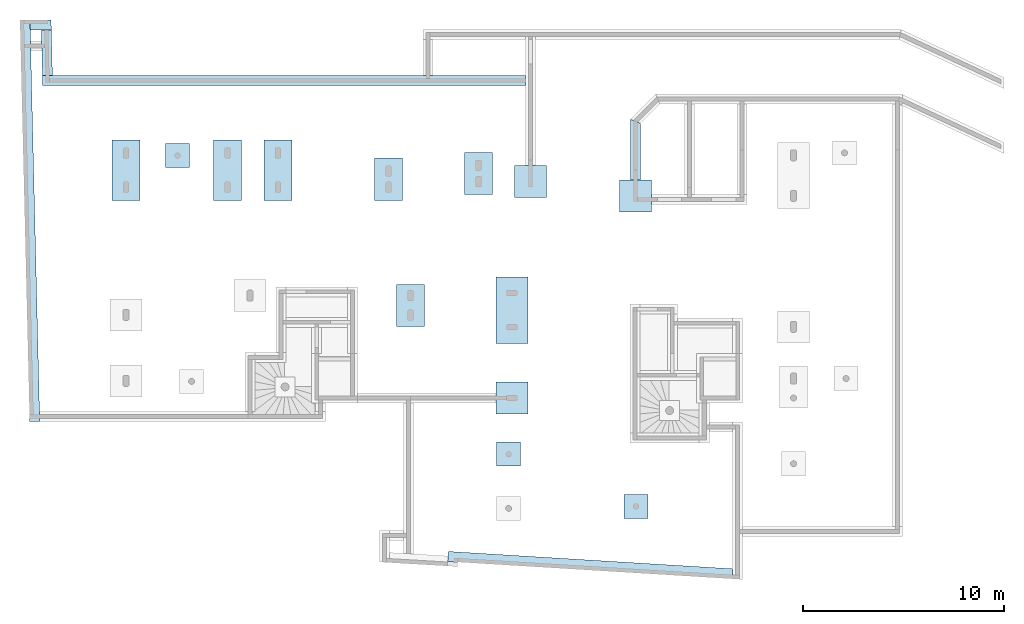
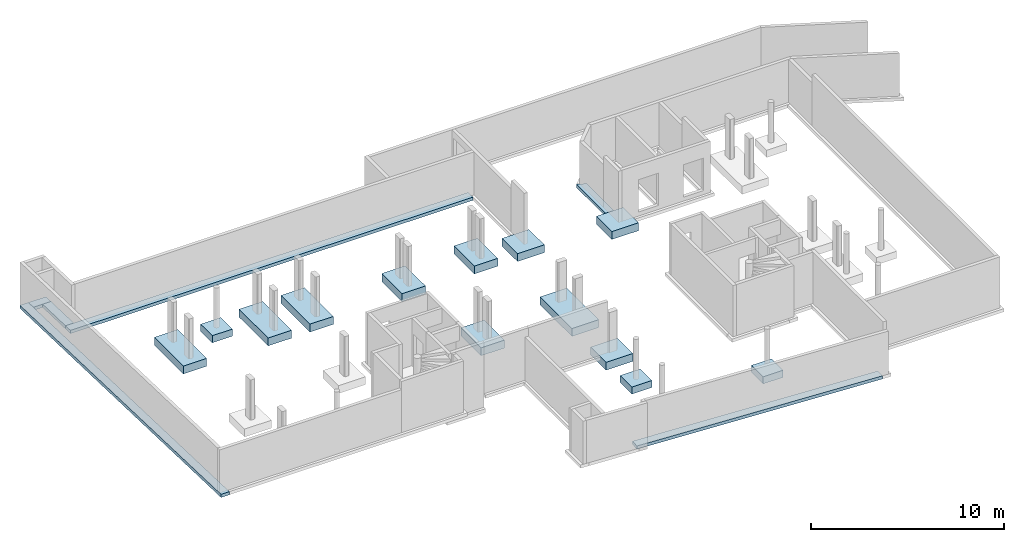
# One storey, part 6 of 6: 19 footings.
"""IFC2X3 building model written with IfcOpenShell, lengths in millimetres."""

from ifc_helpers import new_model, entity, si_unit, converted_unit, frame, origin, origin_with_axes, place, context, subcontext, project, spatial, faceted_brep, material, element, save


model = new_model("IFC2X3")

# Units and contexts
model_context = context("Model", 3, precision=1e-05, world=origin())
body_context = subcontext(model_context, "Body", "Model", "MODEL_VIEW")
ifc_project = project(units=[si_unit("LENGTHUNIT", "METRE", prefix="MILLI"), converted_unit("PLANEANGLEUNIT", "DEGREE", entity("IfcPlaneAngleMeasure", 0.0174532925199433), si_unit("PLANEANGLEUNIT", "RADIAN"), dimensions=[0, 0, 0, 0, 0, 0, 0]), si_unit("AREAUNIT", "SQUARE_METRE"), si_unit("VOLUMEUNIT", "CUBIC_METRE")], contexts=[model_context])

# Site, building, storey
site_placement = place(None, origin())
site = spatial("IfcSite", under=ifc_project, at=site_placement, Name="Propriété", CompositionType="ELEMENT")
building_placement = place(site_placement, origin_with_axes())
building = spatial("IfcBuilding", under=site, at=building_placement, Name="Bâtiment", CompositionType="ELEMENT")
storey_placement = place(building_placement, frame((0.0, 0.0, -3300.0), z_axis=(0.0, 0.0, 1.0), x_axis=(1.0, 0.0, 0.0)))
storey = spatial("IfcBuildingStorey", under=building, at=storey_placement, Name="Sous-sol", CompositionType="ELEMENT", Elevation=-3300.0)

# Footings
ifc_material_1 = material(Name="<Unnamed Material>")
footing_1_placement = place(storey_placement, frame((20000.57775641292, 11374.6293178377, -500.0100000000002), z_axis=(0.0, 0.0, 1.0), x_axis=(1.0, 0.0, 0.0)))
element("IfcFooting", 1, at=footing_1_placement, inside=storey, material=ifc_material_1, Name="<Unnamed Element>", PredefinedType="NOTDEFINED", context=body_context, shape_type="Brep", body=[
    faceted_brep([(0.00999999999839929, 1600.01, 0.01000000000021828), (0.00999999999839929, 0.01000000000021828, 0.01000000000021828), (1600.009999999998, 0.01000000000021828, 0.01000000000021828), (1600.009999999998, 1600.01, 0.01000000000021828), (0.00999999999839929, 0.01000000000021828, 500.0100000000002), (0.00999999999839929, 1600.01, 500.0100000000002), (1600.009999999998, 1600.01, 500.0100000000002), (1600.009999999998, 0.01000000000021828, 500.0100000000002), (0.00999999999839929, 0.01000000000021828, 0.01000000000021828), (0.00999999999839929, 1600.01, 0.01000000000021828), (0.00999999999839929, 1600.01, 500.0100000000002), (0.00999999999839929, 0.01000000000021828, 500.0100000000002), (1600.009999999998, 0.01000000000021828, 0.01000000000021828), (0.00999999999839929, 0.01000000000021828, 0.01000000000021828), (0.00999999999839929, 0.01000000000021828, 500.0100000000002), (1600.009999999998, 0.01000000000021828, 500.0100000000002), (1600.009999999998, 1600.01, 0.01000000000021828), (1600.009999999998, 0.01000000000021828, 0.01000000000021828), (1600.009999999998, 0.01000000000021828, 500.0100000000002), (1600.009999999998, 1600.01, 500.0100000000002), (0.00999999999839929, 1600.01, 0.01000000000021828), (1600.009999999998, 1600.01, 0.01000000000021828), (1600.009999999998, 1600.01, 500.0100000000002), (0.00999999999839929, 1600.01, 500.0100000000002)], [[[0, 1, 2, 3]], [[4, 5, 6, 7]], [[8, 9, 10, 11]], [[12, 13, 14, 15]], [[16, 17, 18, 19]], [[20, 21, 22, 23]]], orient=[[False], [False], [False], [False], [False], [False]]),
])
ifc_material_2 = material(Name="<Unnamed Material>")
footing_2_placement = place(storey_placement, frame((5000.577756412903, 11239.41987471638, -500.0100000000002), z_axis=(0.0, 0.0, 1.0), x_axis=(1.0, 0.0, 0.0)))
element("IfcFooting", 2, at=footing_2_placement, inside=storey, material=ifc_material_2, Name="<Unnamed Element>", PredefinedType="NOTDEFINED", context=body_context, shape_type="Brep", body=[
    faceted_brep([(0.01000000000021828, 3000.01, 0.01000000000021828), (0.01000000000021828, 0.01000000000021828, 0.01000000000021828), (1400.01, 0.01000000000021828, 0.01000000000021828), (1400.01, 3000.01, 0.01000000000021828), (0.01000000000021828, 0.01000000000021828, 500.0100000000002), (0.01000000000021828, 3000.01, 500.0100000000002), (1400.01, 3000.01, 500.0100000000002), (1400.01, 0.01000000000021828, 500.0100000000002), (0.01000000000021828, 0.01000000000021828, 0.01000000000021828), (0.01000000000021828, 3000.01, 0.01000000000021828), (0.01000000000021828, 3000.01, 500.0100000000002), (0.01000000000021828, 0.01000000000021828, 500.0100000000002), (1400.01, 0.01000000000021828, 0.01000000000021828), (0.01000000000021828, 0.01000000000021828, 0.01000000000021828), (0.01000000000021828, 0.01000000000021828, 500.0100000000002), (1400.01, 0.01000000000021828, 500.0100000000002), (1400.01, 3000.01, 0.01000000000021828), (1400.01, 0.01000000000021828, 0.01000000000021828), (1400.01, 0.01000000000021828, 500.0100000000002), (1400.01, 3000.01, 500.0100000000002), (0.01000000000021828, 3000.01, 0.01000000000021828), (1400.01, 3000.01, 0.01000000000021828), (1400.01, 3000.01, 500.0100000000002), (0.01000000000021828, 3000.01, 500.0100000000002)], [[[0, 1, 2, 3]], [[4, 5, 6, 7]], [[8, 9, 10, 11]], [[12, 13, 14, 15]], [[16, 17, 18, 19]], [[20, 21, 22, 23]]], orient=[[False], [False], [False], [False], [False], [False]]),
])
ifc_material_3 = material(Name="<Unnamed Material>")
footing_3_placement = place(storey_placement, frame((-69.42224358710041, 11239.41987471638, -500.0100000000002), z_axis=(0.0, 0.0, 1.0), x_axis=(1.0, 0.0, 0.0)))
element("IfcFooting", 3, at=footing_3_placement, inside=storey, material=ifc_material_3, Name="<Unnamed Element>", PredefinedType="NOTDEFINED", context=body_context, shape_type="Brep", body=[
    faceted_brep([(0.009999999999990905, 3000.01, 0.01000000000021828), (0.009999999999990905, 0.01000000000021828, 0.01000000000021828), (1400.01, 0.01000000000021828, 0.01000000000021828), (1400.01, 3000.01, 0.01000000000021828), (0.009999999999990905, 0.01000000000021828, 500.0100000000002), (0.009999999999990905, 3000.01, 500.0100000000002), (1400.01, 3000.01, 500.0100000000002), (1400.01, 0.01000000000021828, 500.0100000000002), (0.009999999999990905, 0.01000000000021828, 0.01000000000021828), (0.009999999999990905, 3000.01, 0.01000000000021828), (0.009999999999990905, 3000.01, 500.0100000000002), (0.009999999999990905, 0.01000000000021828, 500.0100000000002), (1400.01, 0.01000000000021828, 0.01000000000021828), (0.009999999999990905, 0.01000000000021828, 0.01000000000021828), (0.009999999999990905, 0.01000000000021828, 500.0100000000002), (1400.01, 0.01000000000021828, 500.0100000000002), (1400.01, 3000.01, 0.01000000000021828), (1400.01, 0.01000000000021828, 0.01000000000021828), (1400.01, 0.01000000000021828, 500.0100000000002), (1400.01, 3000.01, 500.0100000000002), (0.009999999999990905, 3000.01, 0.01000000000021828), (1400.01, 3000.01, 0.01000000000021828), (1400.01, 3000.01, 500.0100000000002), (0.009999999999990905, 3000.01, 500.0100000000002)], [[[0, 1, 2, 3]], [[4, 5, 6, 7]], [[8, 9, 10, 11]], [[12, 13, 14, 15]], [[16, 17, 18, 19]], [[20, 21, 22, 23]]], orient=[[False], [False], [False], [False], [False], [False]]),
])
ifc_material_4 = material(Name="<Unnamed Material>")
footing_4_placement = place(storey_placement, frame((7500.577756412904, 11239.41987471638, -500.0100000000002), z_axis=(0.0, 0.0, 1.0), x_axis=(1.0, 0.0, 0.0)))
element("IfcFooting", 4, at=footing_4_placement, inside=storey, material=ifc_material_4, Name="<Unnamed Element>", PredefinedType="NOTDEFINED", context=body_context, shape_type="Brep", body=[
    faceted_brep([(0.009999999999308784, 3000.01, 0.01000000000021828), (0.009999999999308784, 0.01000000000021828, 0.01000000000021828), (1400.01, 0.01000000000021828, 0.01000000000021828), (1400.01, 3000.01, 0.01000000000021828), (0.009999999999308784, 0.01000000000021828, 500.0100000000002), (0.009999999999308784, 3000.01, 500.0100000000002), (1400.01, 3000.01, 500.0100000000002), (1400.01, 0.01000000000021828, 500.0100000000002), (0.009999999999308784, 0.01000000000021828, 0.01000000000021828), (0.009999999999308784, 3000.01, 0.01000000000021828), (0.009999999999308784, 3000.01, 500.0100000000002), (0.009999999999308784, 0.01000000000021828, 500.0100000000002), (1400.01, 0.01000000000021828, 0.01000000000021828), (0.009999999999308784, 0.01000000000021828, 0.01000000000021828), (0.009999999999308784, 0.01000000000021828, 500.0100000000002), (1400.01, 0.01000000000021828, 500.0100000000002), (1400.01, 3000.01, 0.01000000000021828), (1400.01, 0.01000000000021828, 0.01000000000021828), (1400.01, 0.01000000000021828, 500.0100000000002), (1400.01, 3000.01, 500.0100000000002), (0.009999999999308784, 3000.01, 0.01000000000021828), (1400.01, 3000.01, 0.01000000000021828), (1400.01, 3000.01, 500.0100000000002), (0.009999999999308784, 3000.01, 500.0100000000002)], [[[0, 1, 2, 3]], [[4, 5, 6, 7]], [[8, 9, 10, 11]], [[12, 13, 14, 15]], [[16, 17, 18, 19]], [[20, 21, 22, 23]]], orient=[[False], [False], [False], [False], [False], [False]]),
])
ifc_material_5 = material(Name="<Unnamed Material>")
footing_5_placement = place(storey_placement, frame((13010.5777564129, 11239.41987471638, -500.0100000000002), z_axis=(0.0, 0.0, 1.0), x_axis=(1.0, 0.0, 0.0)))
element("IfcFooting", 5, at=footing_5_placement, inside=storey, material=ifc_material_5, Name="<Unnamed Element>", PredefinedType="NOTDEFINED", context=body_context, shape_type="Brep", body=[
    faceted_brep([(0.01000000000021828, 2100.01, 0.01000000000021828), (0.01000000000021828, 0.01000000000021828, 0.01000000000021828), (1400.01, 0.01000000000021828, 0.01000000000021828), (1400.01, 2100.01, 0.01000000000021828), (0.01000000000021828, 0.01000000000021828, 500.0100000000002), (0.01000000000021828, 2100.01, 500.0100000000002), (1400.01, 2100.01, 500.0100000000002), (1400.01, 0.01000000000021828, 500.0100000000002), (0.01000000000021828, 0.01000000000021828, 0.01000000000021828), (0.01000000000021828, 2100.01, 0.01000000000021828), (0.01000000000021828, 2100.01, 500.0100000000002), (0.01000000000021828, 0.01000000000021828, 500.0100000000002), (1400.01, 0.01000000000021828, 0.01000000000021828), (0.01000000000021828, 0.01000000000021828, 0.01000000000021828), (0.01000000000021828, 0.01000000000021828, 500.0100000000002), (1400.01, 0.01000000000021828, 500.0100000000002), (1400.01, 2100.01, 0.01000000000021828), (1400.01, 0.01000000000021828, 0.01000000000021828), (1400.01, 0.01000000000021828, 500.0100000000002), (1400.01, 2100.01, 500.0100000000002), (0.01000000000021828, 2100.01, 0.01000000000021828), (1400.01, 2100.01, 0.01000000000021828), (1400.01, 2100.01, 500.0100000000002), (0.01000000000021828, 2100.01, 500.0100000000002)], [[[0, 1, 2, 3]], [[4, 5, 6, 7]], [[8, 9, 10, 11]], [[12, 13, 14, 15]], [[16, 17, 18, 19]], [[20, 21, 22, 23]]], orient=[[False], [False], [False], [False], [False], [False]]),
])
ifc_material_6 = material(Name="<Unnamed Material>")
footing_6_placement = place(storey_placement, frame((17500.57775641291, 11524.6293178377, -500.0100000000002), z_axis=(0.0, 0.0, 1.0), x_axis=(1.0, 0.0, 0.0)))
element("IfcFooting", 6, at=footing_6_placement, inside=storey, material=ifc_material_6, Name="<Unnamed Element>", PredefinedType="NOTDEFINED", context=body_context, shape_type="Brep", body=[
    faceted_brep([(0.00999999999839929, 2100.01, 0.01000000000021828), (0.00999999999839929, 0.01000000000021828, 0.01000000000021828), (1400.009999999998, 0.01000000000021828, 0.01000000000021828), (1400.009999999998, 2100.01, 0.01000000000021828), (0.00999999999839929, 0.01000000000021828, 500.0100000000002), (0.00999999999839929, 2100.01, 500.0100000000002), (1400.009999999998, 2100.01, 500.0100000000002), (1400.009999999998, 0.01000000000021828, 500.0100000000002), (0.00999999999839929, 0.01000000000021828, 0.01000000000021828), (0.00999999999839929, 2100.01, 0.01000000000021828), (0.00999999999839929, 2100.01, 500.0100000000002), (0.00999999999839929, 0.01000000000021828, 500.0100000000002), (1400.009999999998, 0.01000000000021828, 0.01000000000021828), (0.00999999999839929, 0.01000000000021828, 0.01000000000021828), (0.00999999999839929, 0.01000000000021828, 500.0100000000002), (1400.009999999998, 0.01000000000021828, 500.0100000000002), (1400.009999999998, 2100.01, 0.01000000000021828), (1400.009999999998, 0.01000000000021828, 0.01000000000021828), (1400.009999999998, 0.01000000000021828, 500.0100000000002), (1400.009999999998, 2100.01, 500.0100000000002), (0.00999999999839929, 2100.01, 0.01000000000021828), (1400.009999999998, 2100.01, 0.01000000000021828), (1400.009999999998, 2100.01, 500.0100000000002), (0.00999999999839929, 2100.01, 500.0100000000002)], [[[0, 1, 2, 3]], [[4, 5, 6, 7]], [[8, 9, 10, 11]], [[12, 13, 14, 15]], [[16, 17, 18, 19]], [[20, 21, 22, 23]]], orient=[[False], [False], [False], [False], [False], [False]]),
])
ifc_material_7 = material(Name="<Unnamed Material>")
footing_7_placement = place(storey_placement, frame((14110.57775641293, 4952.13711771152, -500.0100000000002), z_axis=(0.0, 0.0, 1.0), x_axis=(1.0, 0.0, 0.0)))
element("IfcFooting", 7, at=footing_7_placement, inside=storey, material=ifc_material_7, Name="<Unnamed Element>", PredefinedType="NOTDEFINED", context=body_context, shape_type="Brep", body=[
    faceted_brep([(0.01000000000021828, 2100.01, 0.01000000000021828), (0.01000000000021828, 0.01000000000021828, 0.01000000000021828), (1400.01, 0.01000000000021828, 0.01000000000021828), (1400.01, 2100.01, 0.01000000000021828), (0.01000000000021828, 0.01000000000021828, 500.0100000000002), (0.01000000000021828, 2100.01, 500.0100000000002), (1400.01, 2100.01, 500.0100000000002), (1400.01, 0.01000000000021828, 500.0100000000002), (0.01000000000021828, 0.01000000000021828, 0.01000000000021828), (0.01000000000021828, 2100.01, 0.01000000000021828), (0.01000000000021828, 2100.01, 500.0100000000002), (0.01000000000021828, 0.01000000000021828, 500.0100000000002), (1400.01, 0.01000000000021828, 0.01000000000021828), (0.01000000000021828, 0.01000000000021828, 0.01000000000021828), (0.01000000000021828, 0.01000000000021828, 500.0100000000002), (1400.01, 0.01000000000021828, 500.0100000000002), (1400.01, 2100.01, 0.01000000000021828), (1400.01, 0.01000000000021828, 0.01000000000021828), (1400.01, 0.01000000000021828, 500.0100000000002), (1400.01, 2100.01, 500.0100000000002), (0.01000000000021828, 2100.01, 0.01000000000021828), (1400.01, 2100.01, 0.01000000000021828), (1400.01, 2100.01, 500.0100000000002), (0.01000000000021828, 2100.01, 500.0100000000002)], [[[0, 1, 2, 3]], [[4, 5, 6, 7]], [[8, 9, 10, 11]], [[12, 13, 14, 15]], [[16, 17, 18, 19]], [[20, 21, 22, 23]]], orient=[[False], [False], [False], [False], [False], [False]]),
])
ifc_material_8 = material(Name="<Unnamed Material>")
footing_8_placement = place(storey_placement, frame((25220.57775641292, 10659.41987471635, -500.0100000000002), z_axis=(0.0, 0.0, 1.0), x_axis=(1.0, 0.0, 0.0)))
element("IfcFooting", 8, at=footing_8_placement, inside=storey, material=ifc_material_8, Name="<Unnamed Element>", PredefinedType="NOTDEFINED", context=body_context, shape_type="Brep", body=[
    faceted_brep([(0.00999999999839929, 1600.01, 0.01000000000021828), (0.00999999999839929, 0.01000000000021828, 0.01000000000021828), (1600.009999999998, 0.01000000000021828, 0.01000000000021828), (1600.009999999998, 1600.01, 0.01000000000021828), (0.00999999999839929, 0.01000000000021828, 500.0100000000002), (0.00999999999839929, 1600.01, 500.0100000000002), (1600.009999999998, 1600.01, 500.0100000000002), (1600.009999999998, 0.01000000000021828, 500.0100000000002), (0.00999999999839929, 0.01000000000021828, 0.01000000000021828), (0.00999999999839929, 1600.01, 0.01000000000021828), (0.00999999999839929, 1600.01, 500.0100000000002), (0.00999999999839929, 0.01000000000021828, 500.0100000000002), (1600.009999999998, 0.01000000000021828, 0.01000000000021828), (0.00999999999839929, 0.01000000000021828, 0.01000000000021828), (0.00999999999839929, 0.01000000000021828, 500.0100000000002), (1600.009999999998, 0.01000000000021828, 500.0100000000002), (1600.009999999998, 1600.01, 0.01000000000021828), (1600.009999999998, 0.01000000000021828, 0.01000000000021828), (1600.009999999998, 0.01000000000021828, 500.0100000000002), (1600.009999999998, 1600.01, 500.0100000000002), (0.00999999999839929, 1600.01, 0.01000000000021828), (1600.009999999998, 1600.01, 0.01000000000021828), (1600.009999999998, 1600.01, 500.0100000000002), (0.00999999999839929, 1600.01, 500.0100000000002)], [[[0, 1, 2, 3]], [[4, 5, 6, 7]], [[8, 9, 10, 11]], [[12, 13, 14, 15]], [[16, 17, 18, 19]], [[20, 21, 22, 23]]], orient=[[False], [False], [False], [False], [False], [False]]),
])
ifc_material_9 = material(Name="<Unnamed Material>")
footing_9_placement = place(storey_placement, frame((25450.5777564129, -4615.580125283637, -450.0100000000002), z_axis=(0.0, 0.0, 1.0), x_axis=(1.0, 0.0, 0.0)))
element("IfcFooting", 9, at=footing_9_placement, inside=storey, material=ifc_material_9, Name="<Unnamed Element>", PredefinedType="NOTDEFINED", context=body_context, shape_type="Brep", body=[
    faceted_brep([(0.00999999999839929, 1200.01, 0.01000000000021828), (0.00999999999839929, 0.01000000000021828, 0.01000000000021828), (1200.009999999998, 0.01000000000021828, 0.01000000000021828), (1200.009999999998, 1200.01, 0.01000000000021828), (0.00999999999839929, 0.01000000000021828, 450.0100000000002), (0.00999999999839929, 1200.01, 450.0100000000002), (1200.009999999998, 1200.01, 450.0100000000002), (1200.009999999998, 0.01000000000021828, 450.0100000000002), (0.00999999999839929, 0.01000000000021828, 0.01000000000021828), (0.00999999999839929, 1200.01, 0.01000000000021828), (0.00999999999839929, 1200.01, 450.0100000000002), (0.00999999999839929, 0.01000000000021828, 450.0100000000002), (1200.009999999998, 0.01000000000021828, 0.01000000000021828), (0.00999999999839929, 0.01000000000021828, 0.01000000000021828), (0.00999999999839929, 0.01000000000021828, 450.0100000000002), (1200.009999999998, 0.01000000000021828, 450.0100000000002), (1200.009999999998, 1200.01, 0.01000000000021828), (1200.009999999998, 0.01000000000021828, 0.01000000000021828), (1200.009999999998, 0.01000000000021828, 450.0100000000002), (1200.009999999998, 1200.01, 450.0100000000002), (0.00999999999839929, 1200.01, 0.01000000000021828), (1200.009999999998, 1200.01, 0.01000000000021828), (1200.009999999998, 1200.01, 450.0100000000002), (0.00999999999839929, 1200.01, 450.0100000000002)], [[[0, 1, 2, 3]], [[4, 5, 6, 7]], [[8, 9, 10, 11]], [[12, 13, 14, 15]], [[16, 17, 18, 19]], [[20, 21, 22, 23]]], orient=[[False], [False], [False], [False], [False], [False]]),
])
ifc_material_10 = material(Name="<Unnamed Material>")
footing_10_placement = place(storey_placement, frame((19100.57775641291, -2015.58012528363, -450.0100000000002), z_axis=(0.0, 0.0, 1.0), x_axis=(1.0, 0.0, 0.0)))
element("IfcFooting", 10, at=footing_10_placement, inside=storey, material=ifc_material_10, Name="<Unnamed Element>", PredefinedType="NOTDEFINED", context=body_context, shape_type="Brep", body=[
    faceted_brep([(0.00999999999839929, 1200.01, 0.01000000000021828), (0.00999999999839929, 0.009999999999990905, 0.01000000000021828), (1200.009999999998, 0.009999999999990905, 0.01000000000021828), (1200.009999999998, 1200.01, 0.01000000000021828), (0.00999999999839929, 0.009999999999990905, 450.0100000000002), (0.00999999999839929, 1200.01, 450.0100000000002), (1200.009999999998, 1200.01, 450.0100000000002), (1200.009999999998, 0.009999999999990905, 450.0100000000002), (0.00999999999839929, 0.009999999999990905, 0.01000000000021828), (0.00999999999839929, 1200.01, 0.01000000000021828), (0.00999999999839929, 1200.01, 450.0100000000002), (0.00999999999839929, 0.009999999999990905, 450.0100000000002), (1200.009999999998, 0.009999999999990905, 0.01000000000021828), (0.00999999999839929, 0.009999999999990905, 0.01000000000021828), (0.00999999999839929, 0.009999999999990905, 450.0100000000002), (1200.009999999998, 0.009999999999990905, 450.0100000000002), (1200.009999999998, 1200.01, 0.01000000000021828), (1200.009999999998, 0.009999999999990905, 0.01000000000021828), (1200.009999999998, 0.009999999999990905, 450.0100000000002), (1200.009999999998, 1200.01, 450.0100000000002), (0.00999999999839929, 1200.01, 0.01000000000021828), (1200.009999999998, 1200.01, 0.01000000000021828), (1200.009999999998, 1200.01, 450.0100000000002), (0.00999999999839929, 1200.01, 450.0100000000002)], [[[0, 1, 2, 3]], [[4, 5, 6, 7]], [[8, 9, 10, 11]], [[12, 13, 14, 15]], [[16, 17, 18, 19]], [[20, 21, 22, 23]]], orient=[[False], [False], [False], [False], [False], [False]]),
])
ifc_material_11 = material(Name="<Unnamed Material>")
footing_11_placement = place(storey_placement, frame((2600.577756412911, 12864.41987471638, -450.0100000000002), z_axis=(0.0, 0.0, 1.0), x_axis=(1.0, 0.0, 0.0)))
element("IfcFooting", 11, at=footing_11_placement, inside=storey, material=ifc_material_11, Name="<Unnamed Element>", PredefinedType="NOTDEFINED", context=body_context, shape_type="Brep", body=[
    faceted_brep([(0.01000000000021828, 1200.01, 0.01000000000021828), (0.01000000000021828, 0.01000000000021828, 0.01000000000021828), (1200.01, 0.01000000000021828, 0.01000000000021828), (1200.01, 1200.01, 0.01000000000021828), (0.01000000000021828, 0.01000000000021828, 450.0100000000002), (0.01000000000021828, 1200.01, 450.0100000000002), (1200.01, 1200.01, 450.0100000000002), (1200.01, 0.01000000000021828, 450.0100000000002), (0.01000000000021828, 0.01000000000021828, 0.01000000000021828), (0.01000000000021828, 1200.01, 0.01000000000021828), (0.01000000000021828, 1200.01, 450.0100000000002), (0.01000000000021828, 0.01000000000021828, 450.0100000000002), (1200.01, 0.01000000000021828, 0.01000000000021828), (0.01000000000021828, 0.01000000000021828, 0.01000000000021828), (0.01000000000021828, 0.01000000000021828, 450.0100000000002), (1200.01, 0.01000000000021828, 450.0100000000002), (1200.01, 1200.01, 0.01000000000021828), (1200.01, 0.01000000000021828, 0.01000000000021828), (1200.01, 0.01000000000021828, 450.0100000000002), (1200.01, 1200.01, 450.0100000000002), (0.01000000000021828, 1200.01, 0.01000000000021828), (1200.01, 1200.01, 0.01000000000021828), (1200.01, 1200.01, 450.0100000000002), (0.01000000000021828, 1200.01, 450.0100000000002)], [[[0, 1, 2, 3]], [[4, 5, 6, 7]], [[8, 9, 10, 11]], [[12, 13, 14, 15]], [[16, 17, 18, 19]], [[20, 21, 22, 23]]], orient=[[False], [False], [False], [False], [False], [False]]),
])
ifc_material_12 = material(Name="<Unnamed Material>")
footing_12_placement = place(storey_placement, frame((19060.5777564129, 4112.13711771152, -500.0100000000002), z_axis=(0.0, 0.0, 1.0), x_axis=(1.0, 0.0, 0.0)))
element("IfcFooting", 12, at=footing_12_placement, inside=storey, material=ifc_material_12, Name="<Unnamed Element>", PredefinedType="NOTDEFINED", context=body_context, shape_type="Brep", body=[
    faceted_brep([(0.00999999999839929, 3300.01, 0.01000000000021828), (0.00999999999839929, 0.01000000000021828, 0.01000000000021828), (1600.009999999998, 0.01000000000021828, 0.01000000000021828), (1600.009999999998, 3300.01, 0.01000000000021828), (0.00999999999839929, 0.01000000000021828, 500.0100000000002), (0.00999999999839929, 3300.01, 500.0100000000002), (1600.009999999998, 3300.01, 500.0100000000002), (1600.009999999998, 0.01000000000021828, 500.0100000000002), (0.00999999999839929, 0.01000000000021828, 0.01000000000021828), (0.00999999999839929, 3300.01, 0.01000000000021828), (0.00999999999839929, 3300.01, 500.0100000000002), (0.00999999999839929, 0.01000000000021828, 500.0100000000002), (1600.009999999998, 0.01000000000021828, 0.01000000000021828), (0.00999999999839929, 0.01000000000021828, 0.01000000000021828), (0.00999999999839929, 0.01000000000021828, 500.0100000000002), (1600.009999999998, 0.01000000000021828, 500.0100000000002), (1600.009999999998, 3300.01, 0.01000000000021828), (1600.009999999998, 0.01000000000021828, 0.01000000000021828), (1600.009999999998, 0.01000000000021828, 500.0100000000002), (1600.009999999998, 3300.01, 500.0100000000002), (0.00999999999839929, 3300.01, 0.01000000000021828), (1600.009999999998, 3300.01, 0.01000000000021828), (1600.009999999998, 3300.01, 500.0100000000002), (0.00999999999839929, 3300.01, 500.0100000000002)], [[[0, 1, 2, 3]], [[4, 5, 6, 7]], [[8, 9, 10, 11]], [[12, 13, 14, 15]], [[16, 17, 18, 19]], [[20, 21, 22, 23]]], orient=[[False], [False], [False], [False], [False], [False]]),
])
ifc_material_13 = material(Name="<Unnamed Material>")
footing_13_placement = place(storey_placement, frame((19060.57775641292, 584.4198747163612, -500.0100000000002), z_axis=(0.0, 0.0, 1.0), x_axis=(1.0, 0.0, 0.0)))
element("IfcFooting", 13, at=footing_13_placement, inside=storey, material=ifc_material_13, Name="<Unnamed Element>", PredefinedType="NOTDEFINED", context=body_context, shape_type="Brep", body=[
    faceted_brep([(0.00999999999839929, 1600.01, 0.01000000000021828), (0.00999999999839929, 0.009999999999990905, 0.01000000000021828), (1600.009999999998, 0.009999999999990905, 0.01000000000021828), (1600.009999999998, 1600.01, 0.01000000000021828), (0.00999999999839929, 0.009999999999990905, 500.0100000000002), (0.00999999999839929, 1600.01, 500.0100000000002), (1600.009999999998, 1600.01, 500.0100000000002), (1600.009999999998, 0.009999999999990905, 500.0100000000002), (0.00999999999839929, 0.009999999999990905, 0.01000000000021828), (0.00999999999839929, 1600.01, 0.01000000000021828), (0.00999999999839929, 1600.01, 500.0100000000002), (0.00999999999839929, 0.009999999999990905, 500.0100000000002), (1600.009999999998, 0.009999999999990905, 0.01000000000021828), (0.00999999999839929, 0.009999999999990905, 0.01000000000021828), (0.00999999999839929, 0.009999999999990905, 500.0100000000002), (1600.009999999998, 0.009999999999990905, 500.0100000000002), (1600.009999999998, 1600.01, 0.01000000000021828), (1600.009999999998, 0.009999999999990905, 0.01000000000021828), (1600.009999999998, 0.009999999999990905, 500.0100000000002), (1600.009999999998, 1600.01, 500.0100000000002), (0.00999999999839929, 1600.01, 0.01000000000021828), (1600.009999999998, 1600.01, 0.01000000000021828), (1600.009999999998, 1600.01, 500.0100000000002), (0.00999999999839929, 1600.01, 500.0100000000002)], [[[0, 1, 2, 3]], [[4, 5, 6, 7]], [[8, 9, 10, 11]], [[12, 13, 14, 15]], [[16, 17, 18, 19]], [[20, 21, 22, 23]]], orient=[[False], [False], [False], [False], [False], [False]]),
])
ifc_material_14 = material(Name="<Unnamed Material>")
footing_14_placement = place(storey_placement, frame((25770.58775641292, 15279.40462154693, -200.0), z_axis=(0.0, 0.0, 1.0), x_axis=(-1.20463881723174e-15, -0.9999999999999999, 0.0)))
element("IfcFooting", 14, at=footing_14_placement, inside=storey, material=ifc_material_14, Name="<Unnamed Element>", PredefinedType="STRIP_FOOTING", context=body_context, shape_type="Brep", body=[
    faceted_brep([(207.1067811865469, 500.0, 0.0), (0.0, 0.0, 0.0), (3019.97474683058, 0.0, 0.0), (3019.97474683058, 500.0, 0.0), (0.0, 0.0, 200.0), (207.1067811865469, 500.0, 200.0), (3019.97474683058, 500.0, 200.0), (3019.97474683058, 0.0, 200.0), (0.0, 0.0, 0.0), (207.1067811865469, 500.0, 0.0), (207.1067811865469, 500.0, 200.0), (0.0, 0.0, 200.0), (3019.97474683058, 0.0, 0.0), (0.0, 0.0, 0.0), (0.0, 0.0, 200.0), (3019.97474683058, 0.0, 200.0), (3019.97474683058, 500.0, 0.0), (3019.97474683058, 0.0, 0.0), (3019.97474683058, 0.0, 200.0), (3019.97474683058, 500.0, 200.0), (207.1067811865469, 500.0, 0.0), (3019.97474683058, 500.0, 0.0), (3019.97474683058, 500.0, 200.0), (207.1067811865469, 500.0, 200.0)], [[[0, 1, 2, 3]], [[4, 5, 6, 7]], [[8, 9, 10, 11]], [[12, 13, 14, 15]], [[16, 17, 18, 19]], [[20, 21, 22, 23]]], orient=[[False], [False], [False], [False], [False], [False]]),
])
ifc_material_15 = material(Name="<Unnamed Material>")
footing_15_placement = place(storey_placement, frame((16664.1794840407, -6759.887364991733, -200.0), z_axis=(0.0, 0.0, 1.0), x_axis=(0.9981403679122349, -0.0609574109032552, 0.0)))
element("IfcFooting", 15, at=footing_15_placement, inside=storey, material=ifc_material_15, Name="<Unnamed Element>", PredefinedType="STRIP_FOOTING", context=body_context, shape_type="Brep", body=[
    faceted_brep([(-1.259411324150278, 499.9999999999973, 0.0), (0.0, 0.0, 0.0), (14212.83892369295, 0.0, 0.0), (14182.30343346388, 500.0, 0.0), (0.0, 0.0, 200.0), (-1.259411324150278, 499.9999999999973, 200.0), (14182.30343346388, 500.0, 200.0), (14212.83892369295, 0.0, 200.0), (0.0, 0.0, 0.0), (-1.259411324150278, 499.9999999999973, 0.0), (-1.259411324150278, 499.9999999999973, 200.0), (0.0, 0.0, 200.0), (14212.83892369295, 0.0, 0.0), (0.0, 0.0, 0.0), (0.0, 0.0, 200.0), (14212.83892369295, 0.0, 200.0), (14182.30343346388, 500.0, 0.0), (14212.83892369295, 0.0, 0.0), (14212.83892369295, 0.0, 200.0), (14182.30343346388, 500.0, 200.0), (-1.259411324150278, 499.9999999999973, 0.0), (14182.30343346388, 500.0, 0.0), (14182.30343346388, 500.0, 200.0), (-1.259411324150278, 499.9999999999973, 200.0)], [[[0, 1, 2, 3]], [[4, 5, 6, 7]], [[8, 9, 10, 11]], [[12, 13, 14, 15]], [[16, 17, 18, 19]], [[20, 21, 22, 23]]], orient=[[False], [False], [False], [False], [False], [False]]),
])
ifc_material_16 = material(Name="<Unnamed Material>")
footing_16_placement = place(storey_placement, frame((-3033.306069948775, 17449.63931783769, -200.0), z_axis=(0.0, 0.0, 1.0), x_axis=(-0.02417924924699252, 0.9997076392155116, 0.0)))
element("IfcFooting", 16, at=footing_16_placement, inside=storey, material=ifc_material_16, Name="<Unnamed Element>", PredefinedType="STRIP_FOOTING", context=body_context, shape_type="Brep", body=[
    faceted_brep([(12.09316018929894, 499.9999999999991, 0.0), (0.0, 0.0, 0.0), (2274.927513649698, -4.547473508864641e-13, 0.0), (2287.020673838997, 499.9999999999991, 0.0), (0.0, 0.0, 200.0), (12.09316018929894, 499.9999999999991, 200.0), (2287.020673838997, 499.9999999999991, 200.0), (2274.927513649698, -4.547473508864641e-13, 200.0), (0.0, 0.0, 0.0), (12.09316018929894, 499.9999999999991, 0.0), (12.09316018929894, 499.9999999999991, 200.0), (0.0, 0.0, 200.0), (2274.927513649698, -4.547473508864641e-13, 0.0), (0.0, 0.0, 0.0), (0.0, 0.0, 200.0), (2274.927513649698, -4.547473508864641e-13, 200.0), (2287.020673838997, 499.9999999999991, 0.0), (2274.927513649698, -4.547473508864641e-13, 0.0), (2274.927513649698, -4.547473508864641e-13, 200.0), (2287.020673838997, 499.9999999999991, 200.0), (12.09316018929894, 499.9999999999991, 0.0), (2287.020673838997, 499.9999999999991, 0.0), (2287.020673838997, 499.9999999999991, 200.0), (12.09316018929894, 499.9999999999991, 200.0)], [[[0, 1, 2, 3]], [[4, 5, 6, 7]], [[8, 9, 10, 11]], [[12, 13, 14, 15]], [[16, 17, 18, 19]], [[20, 21, 22, 23]]], orient=[[False], [False], [False], [False], [False], [False]]),
])
ifc_material_17 = material(Name="<Unnamed Material>")
footing_17_placement = place(storey_placement, frame((20550.58775641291, 17449.63931783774, -200.0), z_axis=(0.0, 0.0, 1.0), x_axis=(-1.0, -1.963695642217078e-15, 0.0)))
element("IfcFooting", 17, at=footing_17_placement, inside=storey, material=ifc_material_17, Name="<Unnamed Element>", PredefinedType="STRIP_FOOTING", context=body_context, shape_type="Brep", body=[
    faceted_brep([(0.0, 500.0, 0.0), (0.0, 0.0, 0.0), (24084.04004950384, 0.0, 0.0), (24071.94688931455, 500.0, 0.0), (0.0, 0.0, 200.0), (0.0, 500.0, 200.0), (24071.94688931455, 500.0, 200.0), (24084.04004950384, 0.0, 200.0), (0.0, 0.0, 0.0), (0.0, 500.0, 0.0), (0.0, 500.0, 200.0), (0.0, 0.0, 200.0), (24084.04004950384, 0.0, 0.0), (0.0, 0.0, 0.0), (0.0, 0.0, 200.0), (24084.04004950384, 0.0, 200.0), (24071.94688931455, 500.0, 0.0), (24084.04004950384, 0.0, 0.0), (24084.04004950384, 0.0, 200.0), (24071.94688931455, 500.0, 200.0), (0.0, 500.0, 0.0), (24071.94688931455, 500.0, 0.0), (24071.94688931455, 500.0, 200.0), (0.0, 500.0, 200.0)], [[[0, 1, 2, 3]], [[4, 5, 6, 7]], [[8, 9, 10, 11]], [[12, 13, 14, 15]], [[16, 17, 18, 19]], [[20, 21, 22, 23]]], orient=[[False], [False], [False], [False], [False], [False]]),
])
ifc_material_18 = material(Name="<Unnamed Material>")
footing_18_placement = place(storey_placement, frame((-4650.858561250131, 20223.90173189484, -200.0), z_axis=(0.0, 0.0, 1.0), x_axis=(0.02417924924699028, -0.9997076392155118, 0.0)))
element("IfcFooting", 18, at=footing_18_placement, inside=storey, material=ifc_material_18, Name="<Unnamed Element>", PredefinedType="STRIP_FOOTING", context=body_context, shape_type="Brep", body=[
    faceted_brep([(12.0931601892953, 499.9999999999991, 0.0), (0.0, 0.0, 0.0), (20005.32062841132, -9.094947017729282e-13, 0.0), (20017.41378860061, 500.0, 0.0), (0.0, 0.0, 200.0), (12.0931601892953, 499.9999999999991, 200.0), (20017.41378860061, 500.0, 200.0), (20005.32062841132, -9.094947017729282e-13, 200.0), (0.0, 0.0, 0.0), (12.0931601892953, 499.9999999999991, 0.0), (12.0931601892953, 499.9999999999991, 200.0), (0.0, 0.0, 200.0), (20005.32062841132, -9.094947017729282e-13, 0.0), (0.0, 0.0, 0.0), (0.0, 0.0, 200.0), (20005.32062841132, -9.094947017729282e-13, 200.0), (20017.41378860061, 500.0, 0.0), (20005.32062841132, -9.094947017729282e-13, 0.0), (20005.32062841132, -9.094947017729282e-13, 200.0), (20017.41378860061, 500.0, 200.0), (12.0931601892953, 499.9999999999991, 0.0), (20017.41378860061, 500.0, 0.0), (20017.41378860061, 500.0, 200.0), (12.0931601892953, 499.9999999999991, 200.0)], [[[0, 1, 2, 3]], [[4, 5, 6, 7]], [[8, 9, 10, 11]], [[12, 13, 14, 15]], [[16, 17, 18, 19]], [[20, 21, 22, 23]]], orient=[[False], [False], [False], [False], [False], [False]]),
])
ifc_material_19 = material(Name="<Unnamed Material>")
footing_19_placement = place(storey_placement, frame((-3100.405269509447, 20223.90173189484, -200.0), z_axis=(0.0, 0.0, 1.0), x_axis=(-1.0, 0.0, 0.0)))
element("IfcFooting", 19, at=footing_19_placement, inside=storey, material=ifc_material_19, Name="<Unnamed Element>", PredefinedType="STRIP_FOOTING", context=body_context, shape_type="Brep", body=[
    faceted_brep([(-12.09316018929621, 500.0, 0.0), (0.0, 0.0, 0.0), (1050.307068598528, 0.0, 0.0), (1038.213908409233, 500.0, 0.0), (0.0, 0.0, 200.0), (-12.09316018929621, 500.0, 200.0), (1038.213908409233, 500.0, 200.0), (1050.307068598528, 0.0, 200.0), (0.0, 0.0, 0.0), (-12.09316018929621, 500.0, 0.0), (-12.09316018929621, 500.0, 200.0), (0.0, 0.0, 200.0), (1050.307068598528, 0.0, 0.0), (0.0, 0.0, 0.0), (0.0, 0.0, 200.0), (1050.307068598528, 0.0, 200.0), (1038.213908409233, 500.0, 0.0), (1050.307068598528, 0.0, 0.0), (1050.307068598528, 0.0, 200.0), (1038.213908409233, 500.0, 200.0), (-12.09316018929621, 500.0, 0.0), (1038.213908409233, 500.0, 0.0), (1038.213908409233, 500.0, 200.0), (-12.09316018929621, 500.0, 200.0)], [[[0, 1, 2, 3]], [[4, 5, 6, 7]], [[8, 9, 10, 11]], [[12, 13, 14, 15]], [[16, 17, 18, 19]], [[20, 21, 22, 23]]], orient=[[False], [False], [False], [False], [False], [False]]),
])

save(model, "model.ifc")
